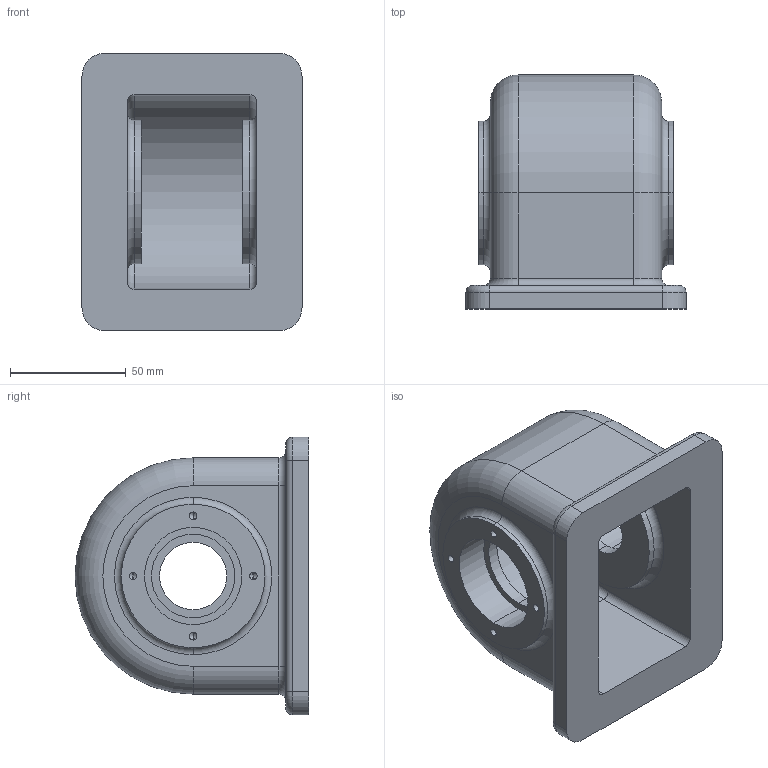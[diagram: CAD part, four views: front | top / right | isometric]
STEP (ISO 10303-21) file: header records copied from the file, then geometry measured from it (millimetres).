
FILE_DESCRIPTION (( 'STEP AP203' ), '1' );
FILE_NAME ('炼驱沥-夯眉.STEP', '2018-07-16T04:30:10', ( 'Windows 荤侩磊' ), ( '' ), 'SwSTEP 2.0', 'SolidWorks 2016', '' );
FILE_SCHEMA (( 'CONFIG_CONTROL_DESIGN' ));
Length unit declared in the file: millimetre
Products named in the file (1): 炼驱沥-夯眉
Bounding box: 95 x 101 x 120 mm (x, y, z)
Volume: 337094.5 mm3; surface area: 77007.8 mm2
Topology: 1 solids, 1 shells, 110 faces, 252 edges, 144 vertices
Faces by surface type: cylinder 54, torus 20, plane 20, cone 16
Entity records: 3081 total; most frequent: DIRECTION 594, CARTESIAN_POINT 491, ORIENTED_EDGE 472, AXIS2_PLACEMENT_3D 247, EDGE_CURVE 236, VERTEX_POINT 144, CIRCLE 136, EDGE_LOOP 130
